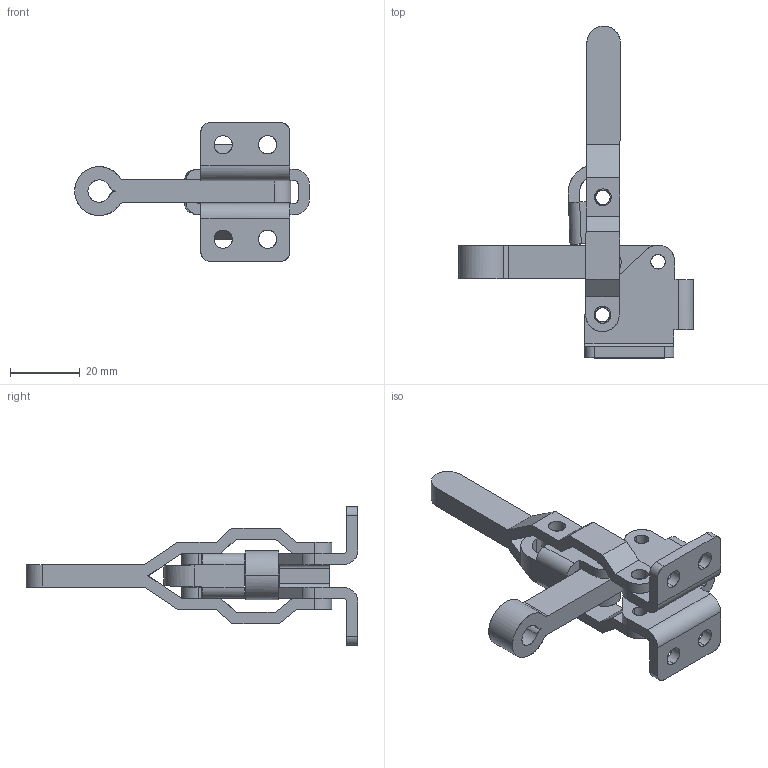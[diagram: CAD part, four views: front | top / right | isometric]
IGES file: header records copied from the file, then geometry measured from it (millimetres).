
Start section: Comment
Global section: file name: 12050.igs; native system:  By Spatial Corp.; preprocessor: XPlus PS/IGES 3.0; author: Author; organization: Title; date: 20050216.170031; units: inch
Bounding box: 67.1 x 94.89 x 39.7 mm (x, y, z)
Surface area: 13784.1 mm2 (no closed solid volume)
Topology: 0 solids, 0 shells, 152 faces, 856 edges, 856 vertices
Faces by surface type: revolution 80, extrusion 72
